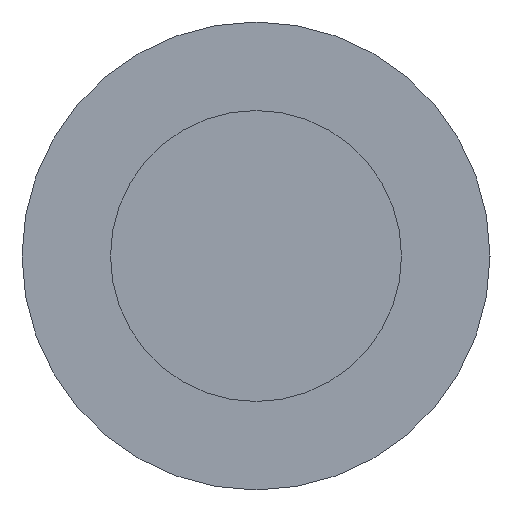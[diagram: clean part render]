
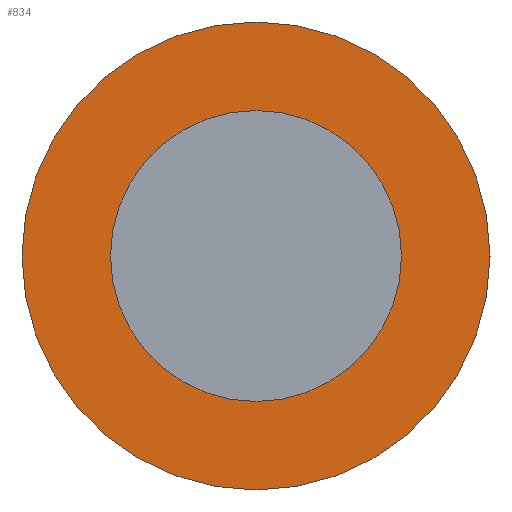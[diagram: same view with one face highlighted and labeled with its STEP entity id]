
A CAD part, left-side view. The second image highlights one B-rep face of the part: STEP entity #834.
In plain terms, the highlighted planar face has unit normal (-1, 0, 0).
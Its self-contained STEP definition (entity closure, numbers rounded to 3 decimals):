
#834 = ADVANCED_FACE( '', ( #1963, #1964 ), #1965, .T. );
#1963 = FACE_OUTER_BOUND( '', #3184, .T. );
#1964 = FACE_BOUND( '', #3185, .T. );
#1965 = PLANE( '', #3186 );
#3184 = EDGE_LOOP( '', ( #4905 ) );
#3185 = EDGE_LOOP( '', ( #4906 ) );
#3186 = AXIS2_PLACEMENT_3D( '', #4907, #4908, #4909 );
#4905 = ORIENTED_EDGE( '', *, *, #5659, .T. );
#4906 = ORIENTED_EDGE( '', *, *, #5558, .F. );
#4907 = CARTESIAN_POINT( '', ( -125., 0., 17.1 ) );
#4908 = DIRECTION( '', ( -1., 0., 0. ) );
#4909 = DIRECTION( '', ( 0., 0., 1. ) );
#5558 = EDGE_CURVE( '', #6377, #6377, #6378, .T. );
#5659 = EDGE_CURVE( '', #6529, #6529, #6530, .T. );
#6377 = VERTEX_POINT( '', #7287 );
#6378 = CIRCLE( '', #7288, 17.1 );
#6529 = VERTEX_POINT( '', #7439 );
#6530 = CIRCLE( '', #7440, 27.5 );
#7287 = CARTESIAN_POINT( '', ( -125., 0., 17.1 ) );
#7288 = AXIS2_PLACEMENT_3D( '', #8273, #8274, #8275 );
#7439 = CARTESIAN_POINT( '', ( -125., 0., 27.5 ) );
#7440 = AXIS2_PLACEMENT_3D( '', #8426, #8427, #8428 );
#8273 = CARTESIAN_POINT( '', ( -125., 0., 0. ) );
#8274 = DIRECTION( '', ( -1., 0., 0. ) );
#8275 = DIRECTION( '', ( 0., 0., 1. ) );
#8426 = CARTESIAN_POINT( '', ( -125., 0., 0. ) );
#8427 = DIRECTION( '', ( -1., 0., 0. ) );
#8428 = DIRECTION( '', ( 0., 0., 1. ) );
